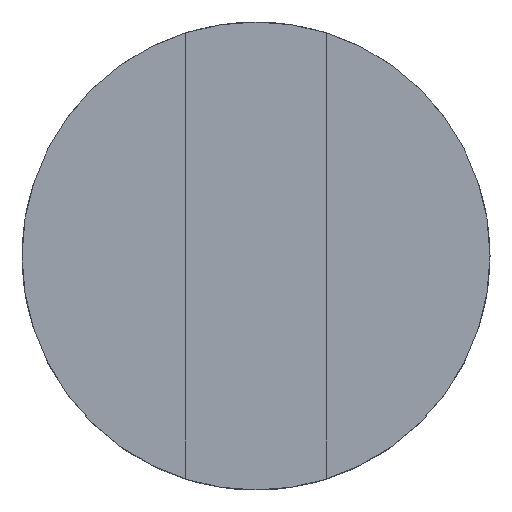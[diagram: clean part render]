
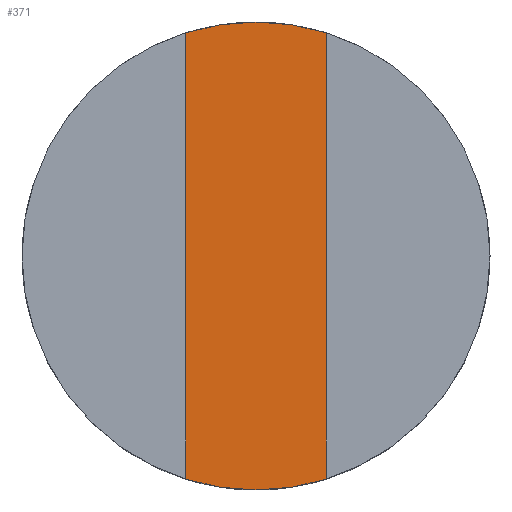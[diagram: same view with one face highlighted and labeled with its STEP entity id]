
A CAD part, top view. The second image highlights one B-rep face of the part: STEP entity #371.
In plain terms, the highlighted planar face has unit normal (0, 0, 1).
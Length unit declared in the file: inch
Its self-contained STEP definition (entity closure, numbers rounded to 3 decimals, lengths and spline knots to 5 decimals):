
#128=CARTESIAN_POINT('',(0.,0.,0.092));
#129=DIRECTION('',(0.,0.,1.));
#130=DIRECTION('',(0.301,0.954,0.));
#131=AXIS2_PLACEMENT_3D('',#128,#129,#130);
#133=DIRECTION('',(0.,1.,0.));
#134=VECTOR('',#133,0.47681);
#135=CARTESIAN_POINT('',(0.07525,-0.23841,0.092));
#136=LINE('',#135,#134);
#137=CARTESIAN_POINT('',(0.,0.,0.092));
#138=DIRECTION('',(0.,0.,1.));
#139=DIRECTION('',(-0.301,-0.954,0.));
#140=AXIS2_PLACEMENT_3D('',#137,#138,#139);
#142=DIRECTION('',(0.,-1.,0.));
#143=VECTOR('',#142,0.47681);
#144=CARTESIAN_POINT('',(-0.07525,0.23841,0.092));
#145=LINE('',#144,#143);
#160=CARTESIAN_POINT('',(0.07525,0.23841,0.092));
#161=VERTEX_POINT('',#160);
#170=CARTESIAN_POINT('',(-0.07525,-0.23841,0.092));
#171=CARTESIAN_POINT('',(0.07525,-0.23841,0.092));
#172=VERTEX_POINT('',#170);
#173=VERTEX_POINT('',#171);
#182=CARTESIAN_POINT('',(-0.07525,0.23841,0.092));
#183=VERTEX_POINT('',#182);
#360=CARTESIAN_POINT('',(0.,0.,0.092));
#361=DIRECTION('',(0.,0.,1.));
#362=DIRECTION('',(0.707,-0.707,0.));
#363=AXIS2_PLACEMENT_3D('',#360,#361,#362);
#364=PLANE('',#363);
#365=ORIENTED_EDGE('',*,*,#195,.F.);
#366=ORIENTED_EDGE('',*,*,#239,.F.);
#367=ORIENTED_EDGE('',*,*,#266,.F.);
#368=ORIENTED_EDGE('',*,*,#354,.F.);
#369=EDGE_LOOP('',(#365,#366,#367,#368));
#370=FACE_OUTER_BOUND('',#369,.F.);
#132=CIRCLE('',#131,0.25);
#141=CIRCLE('',#140,0.25);
#195=EDGE_CURVE('',#161,#183,#132,.T.);
#239=EDGE_CURVE('',#173,#161,#136,.T.);
#266=EDGE_CURVE('',#172,#173,#141,.T.);
#354=EDGE_CURVE('',#183,#172,#145,.T.);
#371=ADVANCED_FACE('',(#370),#364,.T.);
